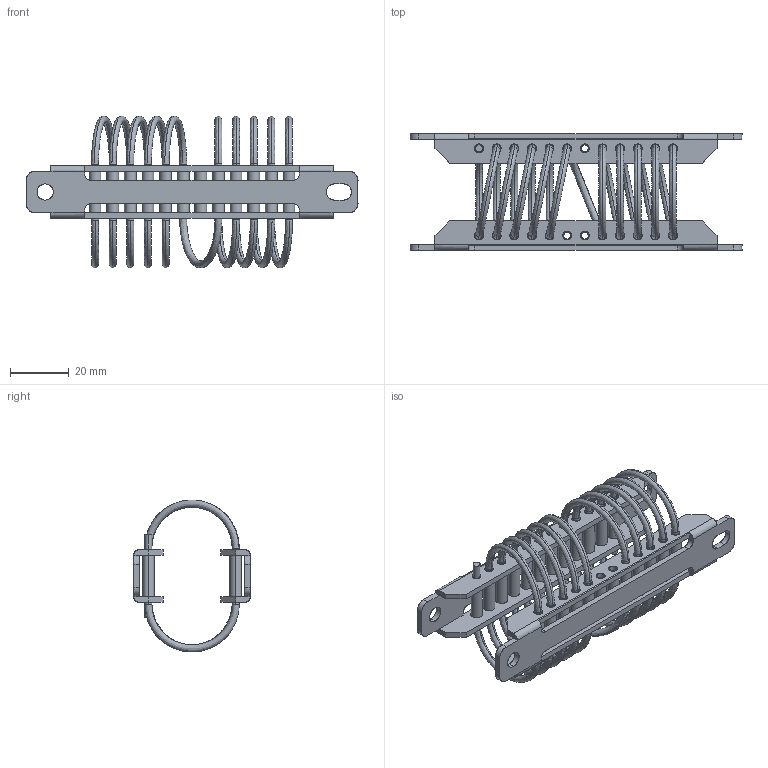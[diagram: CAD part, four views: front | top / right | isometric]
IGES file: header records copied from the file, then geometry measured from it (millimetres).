
Start section: SolidWorks IGES file using analytic representation for surfaces
Bounding box: 113 x 39.7 x 51.7 mm (x, y, z)
Surface area: 27619 mm2 (no closed solid volume)
Topology: 0 solids, 0 shells, 279 faces, 8034 edges, 8034 vertices
Faces by surface type: bspline 155, revolution 124
